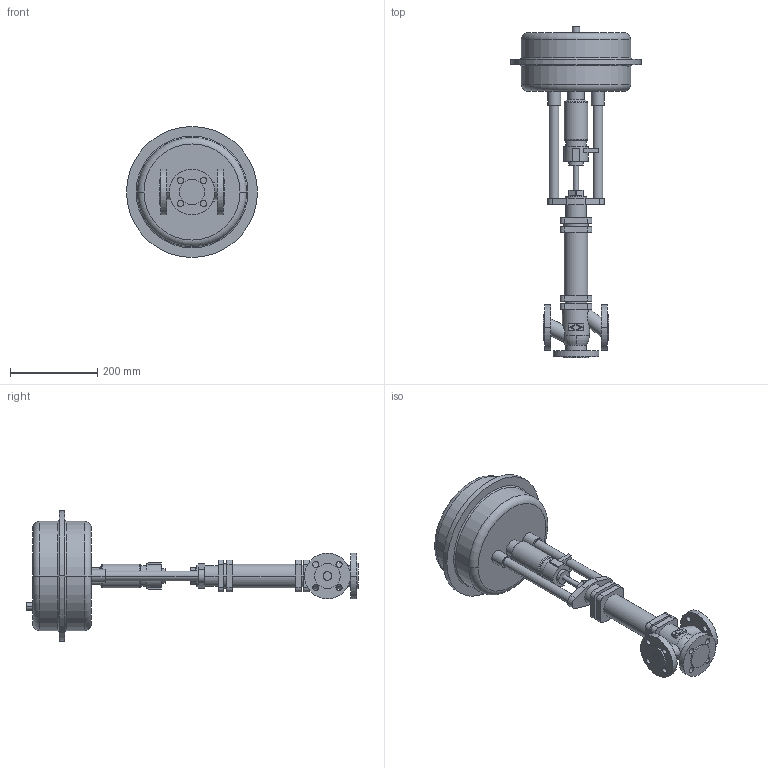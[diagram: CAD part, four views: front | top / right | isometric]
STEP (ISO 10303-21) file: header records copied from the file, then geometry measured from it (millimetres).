
FILE_DESCRIPTION(('OneSpaceDesigner STEP Export'),'2;1');
FILE_NAME('c000000705.stp','2006-09-21T 8:30:10',(''),(''),'OneSpace Designer STEP processor for AP214 (Solid Model)','OneSpace Designer 13.20A 18-Aug-2005 (C) CoCreate Software GmbH','');
FILE_SCHEMA(('AUTOMOTIVE_DESIGN { 1 0 10303 214 1 1 1 1 }'));
Length unit declared in the file: millimetre
Products named in the file (2): 1; 2
Bounding box: 300 x 760.6 x 300 mm (x, y, z)
Volume: 8838158.3 mm3; surface area: 484016.2 mm2
Topology: 2 solids, 2 shells, 236 faces, 578 edges, 381 vertices
Faces by surface type: cylinder 114, plane 100, torus 18, cone 4
Entity records: 6432 total; most frequent: CARTESIAN_POINT 1167, ORIENTED_EDGE 1156, DIRECTION 994, EDGE_CURVE 578, VERTEX_POINT 381, AXIS2_PLACEMENT_3D 356, EDGE_LOOP 295, VECTOR 282
